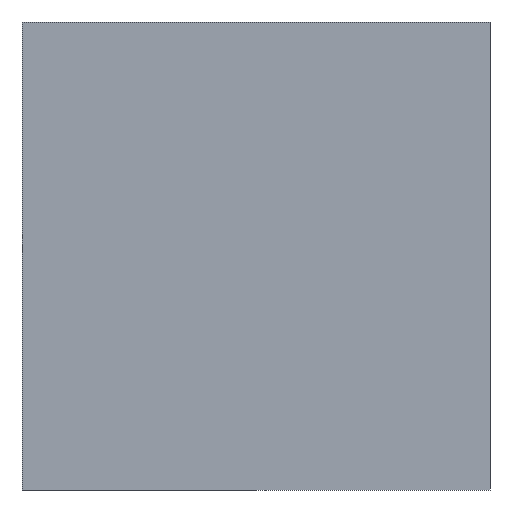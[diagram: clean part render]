
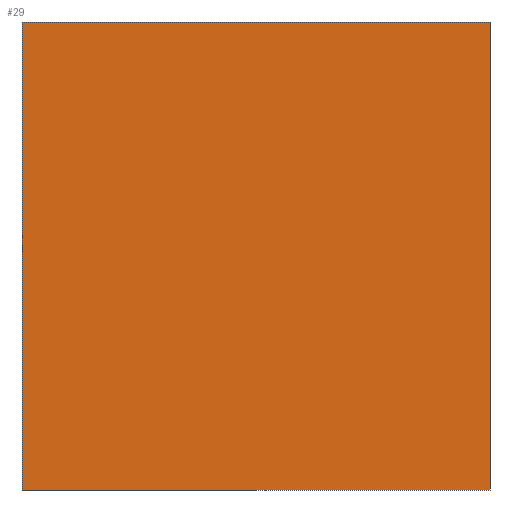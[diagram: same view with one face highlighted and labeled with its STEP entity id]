
A CAD part, left-side view. The second image highlights one B-rep face of the part: STEP entity #29.
In plain terms, the highlighted planar face has unit normal (-1, 0, 0).
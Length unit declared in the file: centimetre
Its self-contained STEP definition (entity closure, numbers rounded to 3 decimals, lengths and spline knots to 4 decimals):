
#10 = VECTOR ( 'NONE', #271, 100. ) ;
#24 = DIRECTION ( 'NONE',  ( 0., 0., -1. ) ) ;
#29 = ADVANCED_FACE ( 'NONE', ( #141 ), #51, .F. ) ;
#39 = EDGE_CURVE ( 'NONE', #247, #124, #77, .T. ) ;
#46 = EDGE_CURVE ( 'NONE', #247, #197, #185, .T. ) ;
#51 = PLANE ( 'NONE',  #92 ) ;
#53 = CARTESIAN_POINT ( 'NONE',  ( 0., 1000., 1000. ) ) ;
#55 = VECTOR ( 'NONE', #24, 100. ) ;
#75 = ORIENTED_EDGE ( 'NONE', *, *, #46, .F. ) ;
#77 = LINE ( 'NONE', #159, #165 ) ;
#83 = EDGE_CURVE ( 'NONE', #197, #156, #269, .T. ) ;
#88 = EDGE_CURVE ( 'NONE', #124, #156, #333, .T. ) ;
#92 = AXIS2_PLACEMENT_3D ( 'NONE', #53, #101, #183 ) ;
#101 = DIRECTION ( 'NONE',  ( 1., 0., 0. ) ) ;
#102 = DIRECTION ( 'NONE',  ( 0., -1., 0. ) ) ;
#124 = VERTEX_POINT ( 'NONE', #181 ) ;
#126 = EDGE_LOOP ( 'NONE', ( #311, #306, #75, #344 ) ) ;
#131 = DIRECTION ( 'NONE',  ( 0., 0., -1. ) ) ;
#141 = FACE_OUTER_BOUND ( 'NONE', #126, .T. ) ;
#156 = VERTEX_POINT ( 'NONE', #262 ) ;
#159 = CARTESIAN_POINT ( 'NONE',  ( 0., 1000., 1000. ) ) ;
#165 = VECTOR ( 'NONE', #131, 100. ) ;
#171 = CARTESIAN_POINT ( 'NONE',  ( 0., 1000., 1000. ) ) ;
#181 = CARTESIAN_POINT ( 'NONE',  ( 0., 1000., 0. ) ) ;
#183 = DIRECTION ( 'NONE',  ( 0., 0., -1. ) ) ;
#185 = LINE ( 'NONE', #212, #10 ) ;
#187 = CARTESIAN_POINT ( 'NONE',  ( 0., 0., 1000. ) ) ;
#197 = VERTEX_POINT ( 'NONE', #254 ) ;
#201 = VECTOR ( 'NONE', #102, 100. ) ;
#212 = CARTESIAN_POINT ( 'NONE',  ( 0., 1000., 1000. ) ) ;
#247 = VERTEX_POINT ( 'NONE', #171 ) ;
#254 = CARTESIAN_POINT ( 'NONE',  ( 0., 0., 1000. ) ) ;
#262 = CARTESIAN_POINT ( 'NONE',  ( 0., 0., 0. ) ) ;
#269 = LINE ( 'NONE', #187, #55 ) ;
#271 = DIRECTION ( 'NONE',  ( 0., -1., 0. ) ) ;
#306 = ORIENTED_EDGE ( 'NONE', *, *, #83, .F. ) ;
#311 = ORIENTED_EDGE ( 'NONE', *, *, #88, .T. ) ;
#333 = LINE ( 'NONE', #361, #201 ) ;
#344 = ORIENTED_EDGE ( 'NONE', *, *, #39, .T. ) ;
#361 = CARTESIAN_POINT ( 'NONE',  ( 0., 1000., 0. ) ) ;
